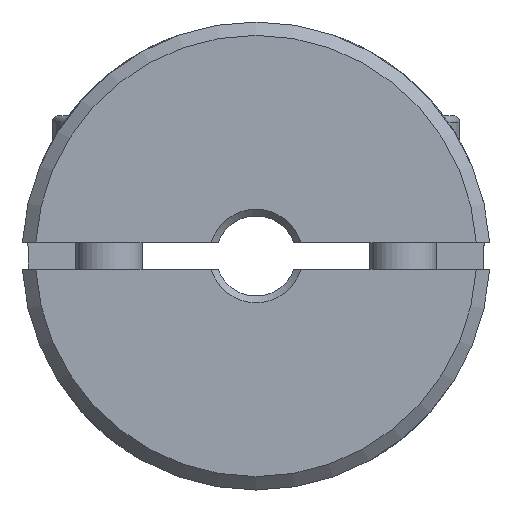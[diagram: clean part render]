
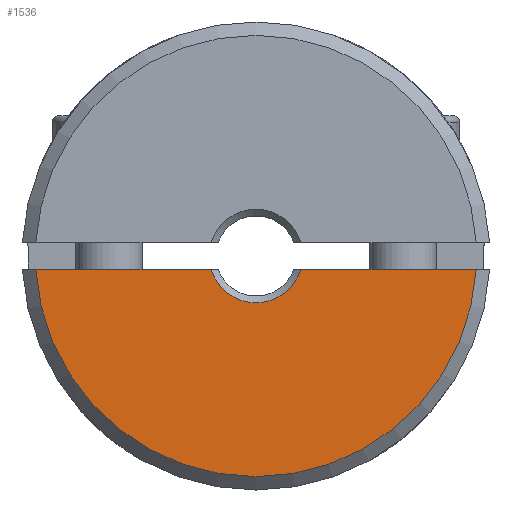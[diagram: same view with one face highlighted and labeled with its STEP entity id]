
A CAD part, left-side view. The second image highlights one B-rep face of the part: STEP entity #1536.
In plain terms, the highlighted planar face has unit normal (-1, 0, 0) as drawn and (1, 0, 0) by its records, which use the part's own axes.
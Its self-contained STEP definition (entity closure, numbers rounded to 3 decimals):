
#45=LINE('',#2609,#87);
#46=LINE('',#2614,#88);
#87=VECTOR('',#2164,1000.);
#88=VECTOR('',#2167,1000.);
#374=ORIENTED_EDGE('',*,*,#652,.F.);
#375=ORIENTED_EDGE('',*,*,#653,.T.);
#376=ORIENTED_EDGE('',*,*,#654,.F.);
#377=ORIENTED_EDGE('',*,*,#655,.F.);
#652=EDGE_CURVE('',#823,#824,#45,.T.);
#653=EDGE_CURVE('',#823,#825,#961,.F.);
#654=EDGE_CURVE('',#826,#825,#46,.T.);
#655=EDGE_CURVE('',#824,#826,#962,.T.);
#823=VERTEX_POINT('',#2610);
#824=VERTEX_POINT('',#2611);
#825=VERTEX_POINT('',#2613);
#826=VERTEX_POINT('',#2615);
#961=CIRCLE('',#1786,3.5);
#962=CIRCLE('',#1787,16.5);
#1130=EDGE_LOOP('',(#374,#375,#376,#377));
#1340=FACE_BOUND('',#1130,.T.);
#1444=PLANE('',#1785);
#1536=ADVANCED_FACE('',(#1340),#1444,.T.);
#1785=AXIS2_PLACEMENT_3D('',#2608,#2162,#2163);
#1786=AXIS2_PLACEMENT_3D('',#2612,#2165,#2166);
#1787=AXIS2_PLACEMENT_3D('',#2616,#2168,#2169);
#2162=DIRECTION('',(1.,0.,0.));
#2163=DIRECTION('',(0.,0.,-1.));
#2164=DIRECTION('',(0.,1.,0.));
#2165=DIRECTION('',(1.,0.,0.));
#2166=DIRECTION('',(0.,0.,-1.));
#2167=DIRECTION('',(0.,1.,0.));
#2168=DIRECTION('',(-1.,0.,0.));
#2169=DIRECTION('',(0.,0.,1.));
#2608=CARTESIAN_POINT('',(18.5,0.,3.));
#2609=CARTESIAN_POINT('',(18.5,-34.18,-1.));
#2610=CARTESIAN_POINT('',(18.5,3.354,-1.));
#2611=CARTESIAN_POINT('',(18.5,16.47,-1.));
#2612=CARTESIAN_POINT('',(18.5,0.,0.));
#2613=CARTESIAN_POINT('',(18.5,-3.354,-1.));
#2614=CARTESIAN_POINT('',(18.5,-34.18,-1.));
#2615=CARTESIAN_POINT('',(18.5,-16.47,-1.));
#2616=CARTESIAN_POINT('',(18.5,0.,0.));
